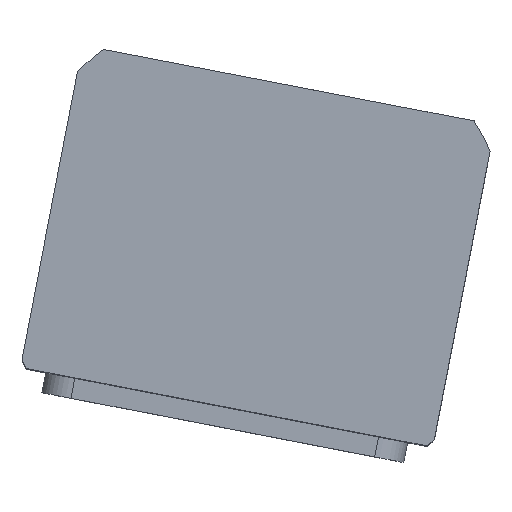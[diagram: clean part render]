
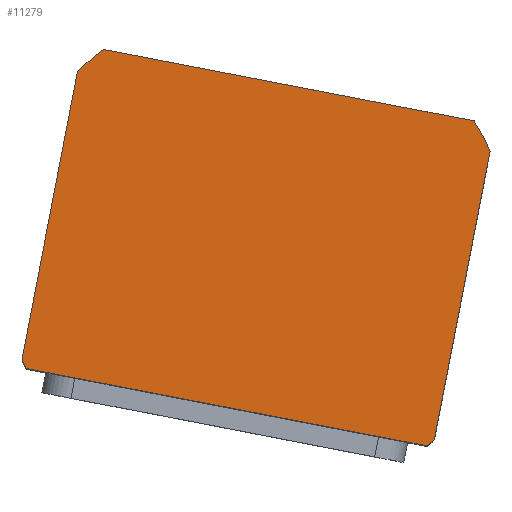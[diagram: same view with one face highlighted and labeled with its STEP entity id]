
A CAD part, top view. The second image highlights one B-rep face of the part: STEP entity #11279.
In plain terms, the highlighted planar face has unit normal (0, 0, 1) as drawn and (0, 0, -1) by its records, which use the part's own axes.
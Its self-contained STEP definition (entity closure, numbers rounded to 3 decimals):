
#641 = CARTESIAN_POINT ( 'NONE',  ( 0., 2.5, 0. ) ) ;
#987 = FACE_OUTER_BOUND ( 'NONE', #17771, .T. ) ;
#1042 = ORIENTED_EDGE ( 'NONE', *, *, #14221, .F. ) ;
#1711 = DIRECTION ( 'NONE',  ( 0., 0., 1. ) ) ;
#1810 = CARTESIAN_POINT ( 'NONE',  ( 57., 44.5, 0. ) ) ;
#2060 = DIRECTION ( 'NONE',  ( 1., 0., 0. ) ) ;
#2316 = EDGE_CURVE ( 'NONE', #17265, #10609, #8274, .T. ) ;
#2403 = EDGE_CURVE ( 'NONE', #5743, #3712, #12030, .T. ) ;
#2471 = LINE ( 'NONE', #1810, #5769 ) ;
#2730 = DIRECTION ( 'NONE',  ( 0., 0., 1. ) ) ;
#2745 = CARTESIAN_POINT ( 'NONE',  ( 0., 2.5, 0. ) ) ;
#3464 = VERTEX_POINT ( 'NONE', #11701 ) ;
#3712 = VERTEX_POINT ( 'NONE', #12121 ) ;
#4095 = VECTOR ( 'NONE', #13881, 1000. ) ;
#4163 = VERTEX_POINT ( 'NONE', #11105 ) ;
#4170 = DIRECTION ( 'NONE',  ( 1., 0., 0. ) ) ;
#4211 = VECTOR ( 'NONE', #17263, 1000. ) ;
#4806 = ORIENTED_EDGE ( 'NONE', *, *, #2316, .F. ) ;
#4893 = CARTESIAN_POINT ( 'NONE',  ( 55.374, 44.5, 0. ) ) ;
#5042 = ORIENTED_EDGE ( 'NONE', *, *, #17212, .F. ) ;
#5117 = EDGE_CURVE ( 'NONE', #8831, #3464, #16903, .T. ) ;
#5209 = CIRCLE ( 'NONE', #13830, 69.5 ) ;
#5743 = VERTEX_POINT ( 'NONE', #4893 ) ;
#5769 = VECTOR ( 'NONE', #5988, 1000. ) ;
#5988 = DIRECTION ( 'NONE',  ( 0., 1., 0. ) ) ;
#6593 = ORIENTED_EDGE ( 'NONE', *, *, #9279, .F. ) ;
#7148 = AXIS2_PLACEMENT_3D ( 'NONE', #10172, #1711, #11585 ) ;
#7204 = AXIS2_PLACEMENT_3D ( 'NONE', #641, #10521, #2060 ) ;
#7356 = CARTESIAN_POINT ( 'NONE',  ( 0., 2.5, 0. ) ) ;
#7391 = CARTESIAN_POINT ( 'NONE',  ( -57., -44.5, 0. ) ) ;
#7413 = CARTESIAN_POINT ( 'NONE',  ( 51.198, -44.5, 0. ) ) ;
#7515 = LINE ( 'NONE', #7391, #4211 ) ;
#7944 = CIRCLE ( 'NONE', #7148, 69.5 ) ;
#8274 = LINE ( 'NONE', #10988, #15348 ) ;
#8766 = DIRECTION ( 'NONE',  ( 1., 0., 0. ) ) ;
#8831 = VERTEX_POINT ( 'NONE', #7413 ) ;
#9279 = EDGE_CURVE ( 'NONE', #10609, #15905, #5209, .T. ) ;
#9519 = PLANE ( 'NONE',  #9940 ) ;
#9625 = DIRECTION ( 'NONE',  ( 0., -1., 0. ) ) ;
#9940 = AXIS2_PLACEMENT_3D ( 'NONE', #18215, #2730, #12601 ) ;
#10172 = CARTESIAN_POINT ( 'NONE',  ( 0., 2.5, 0. ) ) ;
#10521 = DIRECTION ( 'NONE',  ( 0., 0., 1. ) ) ;
#10609 = VERTEX_POINT ( 'NONE', #11686 ) ;
#10988 = CARTESIAN_POINT ( 'NONE',  ( -57., 44.5, 0. ) ) ;
#11076 = ORIENTED_EDGE ( 'NONE', *, *, #16502, .F. ) ;
#11105 = CARTESIAN_POINT ( 'NONE',  ( 57., 42.265, 0. ) ) ;
#11279 = ADVANCED_FACE ( 'NONE', ( #987 ), #9519, .F. ) ;
#11585 = DIRECTION ( 'NONE',  ( 1., 0., 0. ) ) ;
#11645 = CARTESIAN_POINT ( 'NONE',  ( -57., 42.265, 0. ) ) ;
#11686 = CARTESIAN_POINT ( 'NONE',  ( -57., -37.265, 0. ) ) ;
#11701 = CARTESIAN_POINT ( 'NONE',  ( 57., -37.265, 0. ) ) ;
#12030 = LINE ( 'NONE', #12458, #4095 ) ;
#12121 = CARTESIAN_POINT ( 'NONE',  ( -55.374, 44.5, 0. ) ) ;
#12458 = CARTESIAN_POINT ( 'NONE',  ( -57., 44.5, 0. ) ) ;
#12601 = DIRECTION ( 'NONE',  ( 1., 0., 0. ) ) ;
#12618 = DIRECTION ( 'NONE',  ( 0., 0., 1. ) ) ;
#13154 = ORIENTED_EDGE ( 'NONE', *, *, #17185, .F. ) ;
#13186 = AXIS2_PLACEMENT_3D ( 'NONE', #7356, #17225, #8766 ) ;
#13590 = CARTESIAN_POINT ( 'NONE',  ( -51.198, -44.5, 0. ) ) ;
#13830 = AXIS2_PLACEMENT_3D ( 'NONE', #2745, #12618, #4170 ) ;
#13881 = DIRECTION ( 'NONE',  ( -1., 0., 0. ) ) ;
#14221 = EDGE_CURVE ( 'NONE', #3464, #4163, #2471, .T. ) ;
#15348 = VECTOR ( 'NONE', #9625, 1000. ) ;
#15484 = ORIENTED_EDGE ( 'NONE', *, *, #2403, .F. ) ;
#15905 = VERTEX_POINT ( 'NONE', #13590 ) ;
#16502 = EDGE_CURVE ( 'NONE', #3712, #17265, #17237, .T. ) ;
#16903 = CIRCLE ( 'NONE', #7204, 69.5 ) ;
#17016 = ORIENTED_EDGE ( 'NONE', *, *, #5117, .F. ) ;
#17185 = EDGE_CURVE ( 'NONE', #4163, #5743, #7944, .T. ) ;
#17212 = EDGE_CURVE ( 'NONE', #15905, #8831, #7515, .T. ) ;
#17225 = DIRECTION ( 'NONE',  ( 0., 0., 1. ) ) ;
#17237 = CIRCLE ( 'NONE', #13186, 69.5 ) ;
#17263 = DIRECTION ( 'NONE',  ( 1., 0., 0. ) ) ;
#17265 = VERTEX_POINT ( 'NONE', #11645 ) ;
#17771 = EDGE_LOOP ( 'NONE', ( #13154, #1042, #17016, #5042, #6593, #4806, #11076, #15484 ) ) ;
#18215 = CARTESIAN_POINT ( 'NONE',  ( 0., 0., 0. ) ) ;
